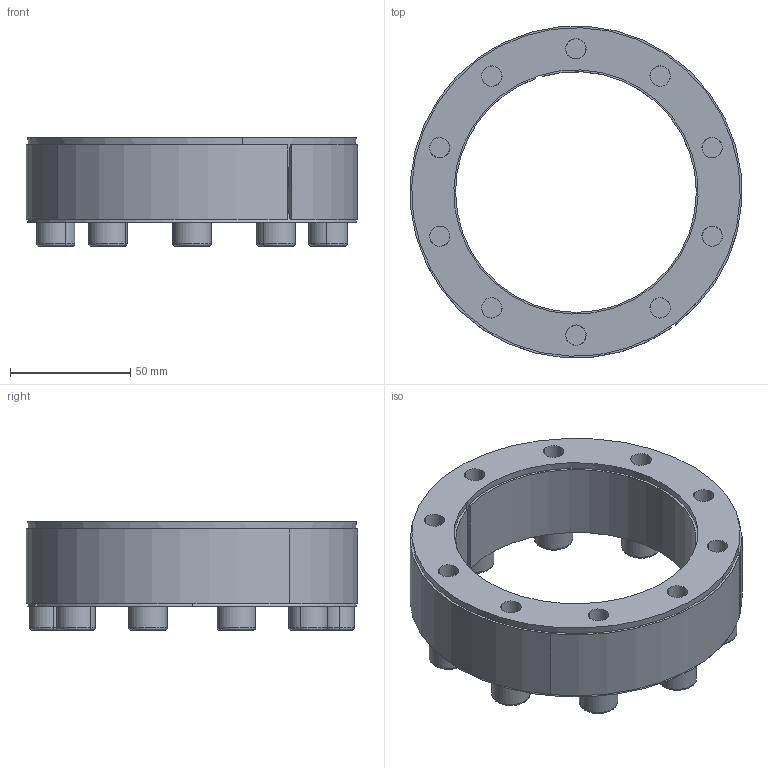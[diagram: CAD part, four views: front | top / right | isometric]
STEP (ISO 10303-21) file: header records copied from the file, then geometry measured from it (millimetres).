
FILE_DESCRIPTION (( 'STEP AP214' ), '1' );
FILE_NAME ('CONEX-L-100x138.step', '2013-04-06T13:23:38', ( 'Pc' ), ( '' ), 'SwSTEP 2.0', 'SolidWorks 2013', '' );
FILE_SCHEMA (( 'AUTOMOTIVE_DESIGN' ));
Length unit declared in the file: millimetre
Products named in the file (1): CONEX-L-100x138
Bounding box: 137.65 x 137.58 x 45.03 mm (x, y, z)
Volume: 231577.5 mm3; surface area: 112628 mm2
Topology: 13 solids, 13 shells, 353 faces, 809 edges, 482 vertices
Faces by surface type: plane 161, cylinder 96, cone 56, torus 40
Entity records: 13937 total; most frequent: DIRECTION 1870, CARTESIAN_POINT 1661, ORIENTED_EDGE 1578, EDGE_CURVE 789, AXIS2_PLACEMENT_3D 735, VERTEX_POINT 482, EDGE_LOOP 425, LINE 400
